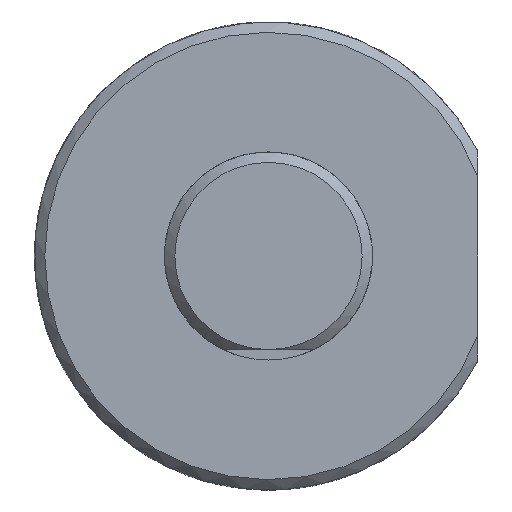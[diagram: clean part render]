
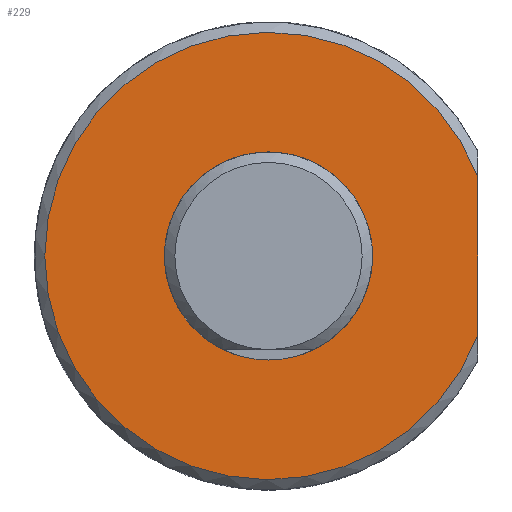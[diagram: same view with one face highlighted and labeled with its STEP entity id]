
A CAD part, front view. The second image highlights one B-rep face of the part: STEP entity #229.
In plain terms, the highlighted planar face has unit normal (0, -1, 0).
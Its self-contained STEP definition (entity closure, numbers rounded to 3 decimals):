
#111=FACE_BOUND('',#306,.T.);
#112=FACE_BOUND('',#307,.T.);
#142=PLANE('',#751);
#164=LINE('',#1073,#197);
#197=VECTOR('',#857,1.);
#229=ADVANCED_FACE('',(#111,#112),#142,.T.);
#306=EDGE_LOOP('',(#377,#378));
#307=EDGE_LOOP('',(#379));
#377=ORIENTED_EDGE('',*,*,#609,.F.);
#378=ORIENTED_EDGE('',*,*,#610,.T.);
#379=ORIENTED_EDGE('',*,*,#596,.F.);
#530=VERTEX_POINT('',#1042);
#540=VERTEX_POINT('',#1074);
#541=VERTEX_POINT('',#1075);
#596=EDGE_CURVE('',#530,#530,#701,.T.);
#609=EDGE_CURVE('',#540,#541,#164,.T.);
#610=EDGE_CURVE('',#540,#541,#707,.T.);
#701=CIRCLE('',#741,5.);
#707=CIRCLE('',#750,10.75);
#741=AXIS2_PLACEMENT_3D('',#1041,#834,#835);
#750=AXIS2_PLACEMENT_3D('',#1076,#858,#859);
#751=AXIS2_PLACEMENT_3D('',#1077,#860,#861);
#834=DIRECTION('',(0.,-1.,0.));
#835=DIRECTION('',(0.,0.,-1.));
#857=DIRECTION('',(0.,0.,-1.));
#858=DIRECTION('',(0.,-1.,0.));
#859=DIRECTION('',(0.,0.,-1.));
#860=DIRECTION('',(0.,-1.,0.));
#861=DIRECTION('',(0.,0.,-1.));
#1041=CARTESIAN_POINT('',(0.,0.,0.));
#1042=CARTESIAN_POINT('',(0.,0.,-5.));
#1073=CARTESIAN_POINT('',(10.05,0.,0.));
#1074=CARTESIAN_POINT('',(10.05,0.,3.816));
#1075=CARTESIAN_POINT('',(10.05,0.,-3.816));
#1076=CARTESIAN_POINT('',(0.,0.,0.));
#1077=CARTESIAN_POINT('',(0.,0.,0.));
